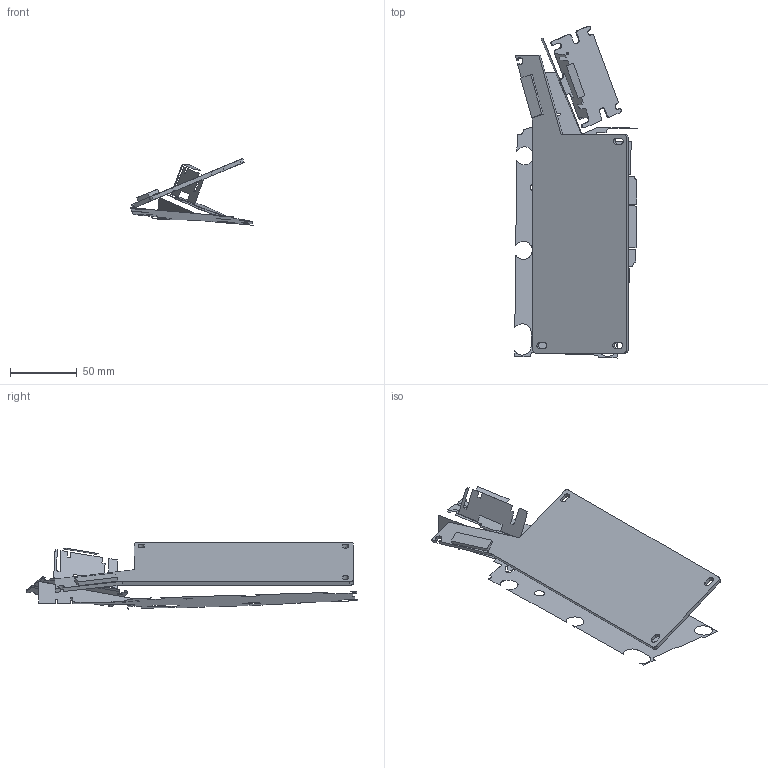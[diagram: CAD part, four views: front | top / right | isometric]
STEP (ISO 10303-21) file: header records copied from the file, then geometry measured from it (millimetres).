
FILE_DESCRIPTION(('CATIA V5 STEP Exchange'),'2;1');
FILE_NAME('C:\Users\HOR\Pictures\Copy (1) of PCB__Proposal_4.stp','2016-06-22T14:10:46+00:00',('${USERPROFILE}'),('VCC'),'CATIA Version 5-6 Release 2014 SP4 HF35','CATIA V5 STEP AP203','none');
FILE_SCHEMA(('CONFIG_CONTROL_DESIGN'));
Length unit declared in the file: millimetre
Products named in the file (1): Copy (1) of PCB__Proposal_4.1
Bounding box: 92.46 x 249.42 x 50.11 mm (x, y, z)
Volume: 40765 mm3; surface area: 49948.7 mm2
Topology: 1 solids, 7 shells, 44 faces, 476 edges, 456 vertices
Faces by surface type: plane 32, cylinder 12
Entity records: 5305 total; most frequent: CARTESIAN_POINT 2219, ORIENTED_EDGE 540, DIRECTION 460, EDGE_CURVE 440, VERTEX_POINT 404, VECTOR 293, LINE 293, AXIS2_PLACEMENT_3D 126
